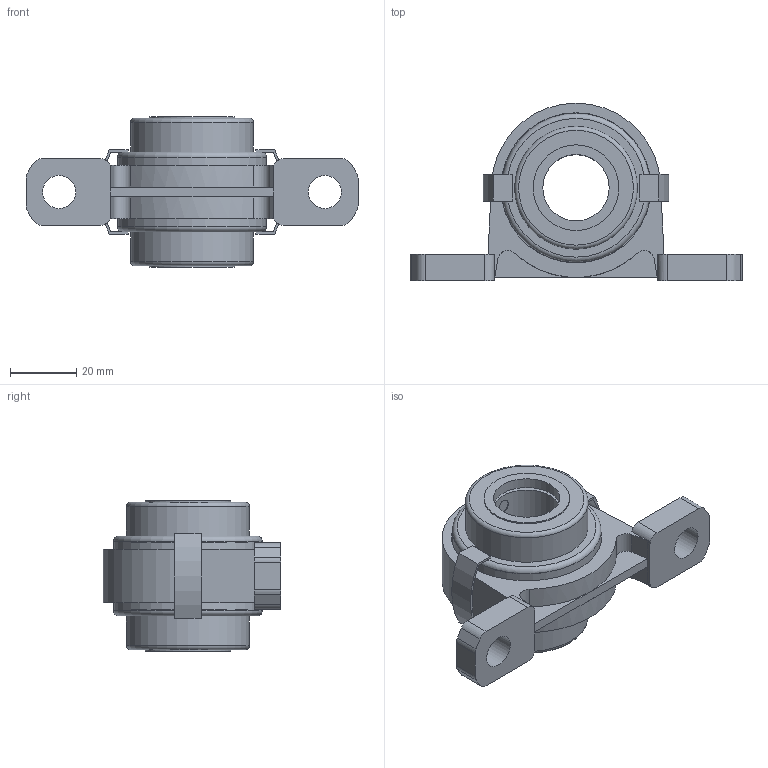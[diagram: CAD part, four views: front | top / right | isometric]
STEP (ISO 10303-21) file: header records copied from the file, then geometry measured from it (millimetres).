
FILE_DESCRIPTION((''),'2;1');
FILE_NAME('\\Ts-tgl068\j-cad-d-base\00.3DCADデータ作成フォルダ\11.エコシリーズ\MUSP000\MUSP004C.stp','2014-11-12T09:22:20',('btec_1106_2'),(''),'Autodesk Inventor 2012','Autodesk Inventor 2012','');
FILE_SCHEMA(('AUTOMOTIVE_DESIGN { 1 0 10303 214 1 1 1 1 }'));
Length unit declared in the file: millimetre
Products named in the file (5): MUSP000C; SP004; U004; 04-5CP20; 4CLP
Assembly tree (6 placements, depth 2):
  MUSP000C
    SP004
    U004
    04-5CP20  x2
    4CLP  x2
Bounding box: 100 x 53.5 x 45.2 mm (x, y, z)
Volume: 40846 mm3; surface area: 31570.9 mm2
Topology: 6 solids, 6 shells, 135 faces, 312 edges, 204 vertices
Faces by surface type: plane 74, cylinder 48, torus 8, cone 3, sphere 2
Full cylindrical faces by diameter (mm): 3.5 x1, 5 x1, 10 x2, 20 x3, 25.8 x4, 27 x1, 30 x1, 36.4 x2, 37 x2, 44.2 x2, 44.8 x2, 45.2 x2
Entity records: 3218 total; most frequent: CARTESIAN_POINT 634, DIRECTION 542, ORIENTED_EDGE 444, EDGE_CURVE 222, AXIS2_PLACEMENT_3D 208, VERTEX_POINT 160, EDGE_LOOP 156, VECTOR 126
